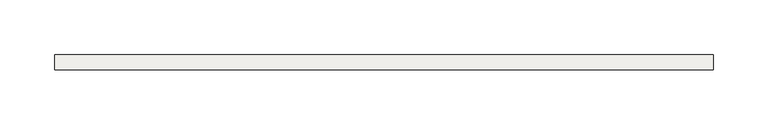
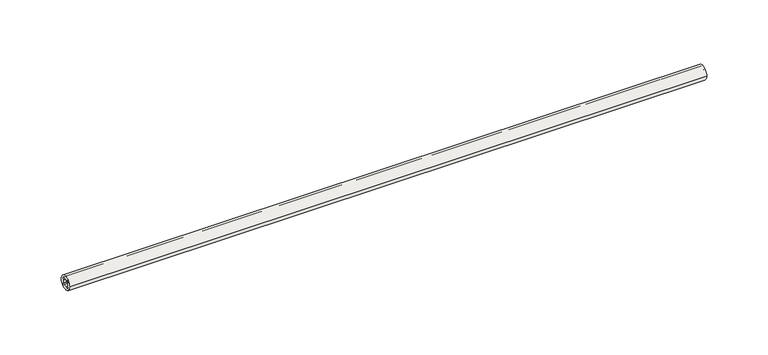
"""IFC4 building model written with IfcOpenShell, lengths in millimetres: covering geometry, SikaFuko® VT-1 : SikaFuko® VT-1."""

from ifc_helpers import new_model, si_unit, point, frame, origin, origin_2d, place, context, project, spatial, polyline, circle_curve, trimmed, segment, composite_curve, outline, extrude, source, transform, mapped, element, save


def covering_1cc77500(model_context):
    return source(origin(), model_context, "Body", "SweptSolid", [
        extrude(outline(composite_curve([segment(trimmed(circle_curve(origin_2d(), 6.75), [point((-6.75, 0.0))], [point((6.75, 0.0))], False, "CARTESIAN"), True, "CONTINUOUS"), segment(trimmed(circle_curve(origin_2d(), 6.75), [point((6.75, 0.0))], [point((-6.75, 0.0))], False, "CARTESIAN"), True, "CONTINUOUS")], self_intersect=False), holes=[composite_curve([segment(trimmed(circle_curve(origin_2d(), 3.0), [point((1.4788194, 2.6101903))], [point((-1.4788194, 2.6101903))], True, "CARTESIAN"), True, "CONTINUOUS"), segment(polyline([(-1.4788194, 2.6101903), (-2.8526475, 3.9840184)]), True, "CONTINUOUS"), segment(trimmed(circle_curve(origin_2d(), 4.9), [point((-2.8526475, 3.9840184))], [point((-3.9840184, 2.8526475))], True, "CARTESIAN"), True, "CONTINUOUS"), segment(polyline([(-3.9840184, 2.8526475), (-2.6101903, 1.4788194)]), True, "CONTINUOUS"), segment(trimmed(circle_curve(origin_2d(), 3.0), [point((-2.6101903, 1.4788194))], [point((-2.6101903, -1.4788194))], True, "CARTESIAN"), True, "CONTINUOUS"), segment(polyline([(-2.6101903, -1.4788194), (-3.9840184, -2.8526475)]), True, "CONTINUOUS"), segment(trimmed(circle_curve(origin_2d(), 4.9), [point((-3.9840184, -2.8526475))], [point((-2.8526475, -3.9840184))], True, "CARTESIAN"), True, "CONTINUOUS"), segment(polyline([(-2.8526475, -3.9840184), (-1.4788194, -2.6101903)]), True, "CONTINUOUS"), segment(trimmed(circle_curve(origin_2d(), 3.0), [point((-1.4788194, -2.6101903))], [point((1.4788194, -2.6101903))], True, "CARTESIAN"), True, "CONTINUOUS"), segment(polyline([(1.4788194, -2.6101903), (2.8526475, -3.9840184)]), True, "CONTINUOUS"), segment(trimmed(circle_curve(origin_2d(), 4.9), [point((2.8526475, -3.9840184))], [point((3.9840184, -2.8526475))], True, "CARTESIAN"), True, "CONTINUOUS"), segment(polyline([(3.9840184, -2.8526475), (2.6101903, -1.4788194)]), True, "CONTINUOUS"), segment(trimmed(circle_curve(origin_2d(), 3.0), [point((2.6101903, -1.4788194))], [point((2.6101903, 1.4788194))], True, "CARTESIAN"), True, "CONTINUOUS"), segment(polyline([(2.6101903, 1.4788194), (3.9840184, 2.8526475)]), True, "CONTINUOUS"), segment(trimmed(circle_curve(origin_2d(), 4.9), [point((3.9840184, 2.8526475))], [point((2.8526475, 3.9840184))], True, "CARTESIAN"), True, "CONTINUOUS"), segment(polyline([(2.8526475, 3.9840184), (1.4788194, 2.6101903)]), True, "CONTINUOUS")], self_intersect=False)]), frame((0.0, 0.0, 0.0), z_axis=(1.0, 0.0, 0.0), x_axis=(0.0, 1.0, 0.0)), (0.0, 0.0, 1.0), 600.0),
    ])


if __name__ == "__main__":
    model = new_model("IFC4")
    model_context = context("Model", 3, world=origin())
    ifc_project = project(units=[si_unit("LENGTHUNIT", "METRE", prefix="MILLI")], contexts=[model_context])
    site = spatial("IfcSite", under=ifc_project)
    building = spatial("IfcBuilding", under=site)
    placement = place(None, origin())
    covering_shape = covering_1cc77500(model_context)
    element("IfcCovering", 1, ObjectType="SikaFuko® VT-1 : SikaFuko® VT-1", at=placement, inside=building, context=model_context, shape_type="MappedRepresentation", body=[
        mapped(covering_shape, transform((0.0, 0.0, 0.0), x_axis=(1.0, 0.0, 0.0), y_axis=(0.0, 1.0, 0.0), z_axis=(0.0, 0.0, 1.0))),
    ])
    save(model, "model.ifc")
